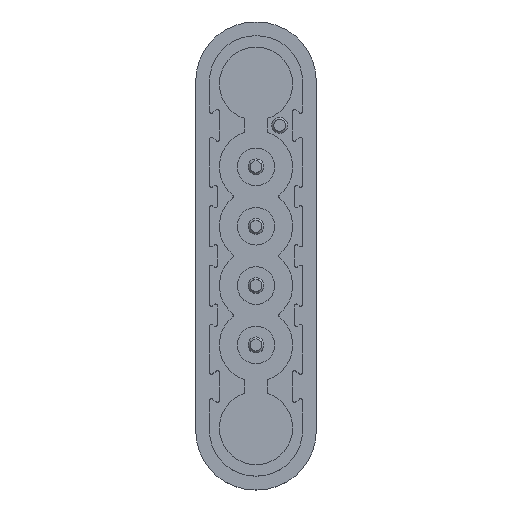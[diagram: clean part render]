
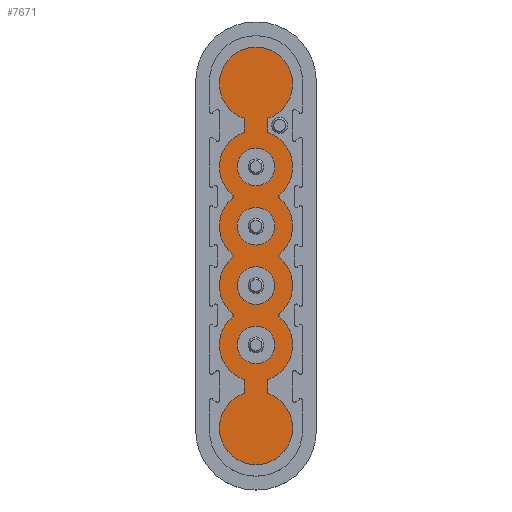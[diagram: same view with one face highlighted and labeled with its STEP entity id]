
A CAD part, top view. The second image highlights one B-rep face of the part: STEP entity #7671.
In plain terms, the highlighted planar face has unit normal (0, 0, 1) as drawn and (0, 0, -1) by its records, which use the part's own axes.
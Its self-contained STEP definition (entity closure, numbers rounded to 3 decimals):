
#6836=DIRECTION('',(0.,-1.,0.));
#6837=VECTOR('',#6836,0.7);
#6838=CARTESIAN_POINT('',(-0.6,6.95,0.));
#6839=LINE('',#6838,#6837);
#6840=CARTESIAN_POINT('',(0.,4.5,0.));
#6841=DIRECTION('',(0.,0.,1.));
#6842=DIRECTION('',(-0.324,0.946,0.));
#6843=AXIS2_PLACEMENT_3D('',#6840,#6841,#6842);
#6845=CARTESIAN_POINT('',(0.,-4.5,0.));
#6846=DIRECTION('',(0.,0.,1.));
#6847=DIRECTION('',(-1.,0.,0.));
#6848=AXIS2_PLACEMENT_3D('',#6845,#6846,#6847);
#6850=DIRECTION('',(0.,-1.,0.));
#6851=VECTOR('',#6850,0.7);
#6852=CARTESIAN_POINT('',(-0.6,-6.25,0.));
#6853=LINE('',#6852,#6851);
#6854=CARTESIAN_POINT('',(0.,-8.7,0.));
#6855=DIRECTION('',(0.,0.,1.));
#6856=DIRECTION('',(-0.324,0.946,0.));
#6857=AXIS2_PLACEMENT_3D('',#6854,#6855,#6856);
#6859=CARTESIAN_POINT('',(0.,-8.7,0.));
#6860=DIRECTION('',(0.,0.,1.));
#6861=DIRECTION('',(-1.,0.,0.));
#6862=AXIS2_PLACEMENT_3D('',#6859,#6860,#6861);
#6864=CARTESIAN_POINT('',(0.,-8.7,0.));
#6865=DIRECTION('',(0.,0.,1.));
#6866=DIRECTION('',(1.,0.,0.));
#6867=AXIS2_PLACEMENT_3D('',#6864,#6865,#6866);
#6869=DIRECTION('',(0.,1.,0.));
#6870=VECTOR('',#6869,0.7);
#6871=CARTESIAN_POINT('',(0.6,-6.95,0.));
#6872=LINE('',#6871,#6870);
#6873=CARTESIAN_POINT('',(0.,-4.5,0.));
#6874=DIRECTION('',(0.,0.,1.));
#6875=DIRECTION('',(0.324,-0.946,0.));
#6876=AXIS2_PLACEMENT_3D('',#6873,#6874,#6875);
#6878=CARTESIAN_POINT('',(0.,4.5,0.));
#6879=DIRECTION('',(0.,0.,1.));
#6880=DIRECTION('',(1.,0.,0.));
#6881=AXIS2_PLACEMENT_3D('',#6878,#6879,#6880);
#6883=DIRECTION('',(0.,1.,0.));
#6884=VECTOR('',#6883,0.7);
#6885=CARTESIAN_POINT('',(0.6,6.25,0.));
#6886=LINE('',#6885,#6884);
#6887=CARTESIAN_POINT('',(0.,8.7,0.));
#6888=DIRECTION('',(0.,0.,1.));
#6889=DIRECTION('',(0.324,-0.946,0.));
#6890=AXIS2_PLACEMENT_3D('',#6887,#6888,#6889);
#6892=CARTESIAN_POINT('',(0.,8.7,0.));
#6893=DIRECTION('',(0.,0.,1.));
#6894=DIRECTION('',(1.,0.,0.));
#6895=AXIS2_PLACEMENT_3D('',#6892,#6893,#6894);
#6897=CARTESIAN_POINT('',(0.,8.7,0.));
#6898=DIRECTION('',(0.,0.,1.));
#6899=DIRECTION('',(-1.,0.,0.));
#6900=AXIS2_PLACEMENT_3D('',#6897,#6898,#6899);
#6902=CARTESIAN_POINT('',(0.,-4.5,0.));
#6903=DIRECTION('',(0.,0.,-1.));
#6904=DIRECTION('',(-1.,0.,0.));
#6905=AXIS2_PLACEMENT_3D('',#6902,#6903,#6904);
#6907=CARTESIAN_POINT('',(0.,-4.5,0.));
#6908=DIRECTION('',(0.,0.,-1.));
#6909=DIRECTION('',(1.,0.,0.));
#6910=AXIS2_PLACEMENT_3D('',#6907,#6908,#6909);
#6912=CARTESIAN_POINT('',(0.,-1.5,0.));
#6913=DIRECTION('',(0.,0.,-1.));
#6914=DIRECTION('',(-1.,0.,0.));
#6915=AXIS2_PLACEMENT_3D('',#6912,#6913,#6914);
#6917=CARTESIAN_POINT('',(0.,-1.5,0.));
#6918=DIRECTION('',(0.,0.,-1.));
#6919=DIRECTION('',(1.,0.,0.));
#6920=AXIS2_PLACEMENT_3D('',#6917,#6918,#6919);
#6922=CARTESIAN_POINT('',(0.,4.5,0.));
#6923=DIRECTION('',(0.,0.,-1.));
#6924=DIRECTION('',(-1.,0.,0.));
#6925=AXIS2_PLACEMENT_3D('',#6922,#6923,#6924);
#6927=CARTESIAN_POINT('',(0.,4.5,0.));
#6928=DIRECTION('',(0.,0.,-1.));
#6929=DIRECTION('',(1.,0.,0.));
#6930=AXIS2_PLACEMENT_3D('',#6927,#6928,#6929);
#6932=CARTESIAN_POINT('',(0.,1.5,0.));
#6933=DIRECTION('',(0.,0.,-1.));
#6934=DIRECTION('',(-1.,0.,0.));
#6935=AXIS2_PLACEMENT_3D('',#6932,#6933,#6934);
#6937=CARTESIAN_POINT('',(0.,1.5,0.));
#6938=DIRECTION('',(0.,0.,-1.));
#6939=DIRECTION('',(1.,0.,0.));
#6940=AXIS2_PLACEMENT_3D('',#6937,#6938,#6939);
#6986=DIRECTION('',(0.,-1.,0.));
#6987=VECTOR('',#6986,9.);
#6988=CARTESIAN_POINT('',(1.85,4.5,0.));
#6989=LINE('',#6988,#6987);
#7050=DIRECTION('',(0.,1.,0.));
#7051=VECTOR('',#7050,9.);
#7052=CARTESIAN_POINT('',(-1.85,-4.5,0.));
#7053=LINE('',#7052,#7051);
#7448=CARTESIAN_POINT('',(-0.6,6.95,0.));
#7449=CARTESIAN_POINT('',(-0.6,6.25,0.));
#7450=VERTEX_POINT('',#7448);
#7451=VERTEX_POINT('',#7449);
#7452=CARTESIAN_POINT('',(-1.85,4.5,0.));
#7453=VERTEX_POINT('',#7452);
#7454=CARTESIAN_POINT('',(-1.85,-4.5,0.));
#7455=VERTEX_POINT('',#7454);
#7456=CARTESIAN_POINT('',(-0.6,-6.25,0.));
#7457=VERTEX_POINT('',#7456);
#7458=CARTESIAN_POINT('',(-0.6,-6.95,0.));
#7459=VERTEX_POINT('',#7458);
#7460=CARTESIAN_POINT('',(-1.85,-8.7,0.));
#7461=VERTEX_POINT('',#7460);
#7462=CARTESIAN_POINT('',(1.85,-8.7,0.));
#7463=VERTEX_POINT('',#7462);
#7464=CARTESIAN_POINT('',(0.6,-6.95,0.));
#7465=VERTEX_POINT('',#7464);
#7466=CARTESIAN_POINT('',(0.6,-6.25,0.));
#7467=VERTEX_POINT('',#7466);
#7468=CARTESIAN_POINT('',(1.85,-4.5,0.));
#7469=VERTEX_POINT('',#7468);
#7470=CARTESIAN_POINT('',(1.85,4.5,0.));
#7471=VERTEX_POINT('',#7470);
#7472=CARTESIAN_POINT('',(0.6,6.25,0.));
#7473=VERTEX_POINT('',#7472);
#7474=CARTESIAN_POINT('',(0.6,6.95,0.));
#7475=VERTEX_POINT('',#7474);
#7476=CARTESIAN_POINT('',(1.85,8.7,0.));
#7477=VERTEX_POINT('',#7476);
#7478=CARTESIAN_POINT('',(-1.85,8.7,0.));
#7479=VERTEX_POINT('',#7478);
#7480=CARTESIAN_POINT('',(-0.95,-4.5,0.));
#7481=CARTESIAN_POINT('',(0.95,-4.5,0.));
#7482=VERTEX_POINT('',#7480);
#7483=VERTEX_POINT('',#7481);
#7484=CARTESIAN_POINT('',(-0.95,-1.5,0.));
#7485=CARTESIAN_POINT('',(0.95,-1.5,0.));
#7486=VERTEX_POINT('',#7484);
#7487=VERTEX_POINT('',#7485);
#7488=CARTESIAN_POINT('',(-0.95,4.5,0.));
#7489=CARTESIAN_POINT('',(0.95,4.5,0.));
#7490=VERTEX_POINT('',#7488);
#7491=VERTEX_POINT('',#7489);
#7492=CARTESIAN_POINT('',(-0.95,1.5,0.));
#7493=CARTESIAN_POINT('',(0.95,1.5,0.));
#7494=VERTEX_POINT('',#7492);
#7495=VERTEX_POINT('',#7493);
#7608=CARTESIAN_POINT('',(0.,-8.7,0.));
#7609=DIRECTION('',(0.,0.,1.));
#7610=DIRECTION('',(1.,0.,0.));
#7611=AXIS2_PLACEMENT_3D('',#7608,#7609,#7610);
#7612=PLANE('',#7611);
#7614=ORIENTED_EDGE('',*,*,#7613,.T.);
#7616=ORIENTED_EDGE('',*,*,#7615,.T.);
#7618=ORIENTED_EDGE('',*,*,#7617,.F.);
#7620=ORIENTED_EDGE('',*,*,#7619,.T.);
#7622=ORIENTED_EDGE('',*,*,#7621,.T.);
#7624=ORIENTED_EDGE('',*,*,#7623,.T.);
#7626=ORIENTED_EDGE('',*,*,#7625,.T.);
#7628=ORIENTED_EDGE('',*,*,#7627,.T.);
#7630=ORIENTED_EDGE('',*,*,#7629,.T.);
#7632=ORIENTED_EDGE('',*,*,#7631,.T.);
#7634=ORIENTED_EDGE('',*,*,#7633,.F.);
#7636=ORIENTED_EDGE('',*,*,#7635,.T.);
#7638=ORIENTED_EDGE('',*,*,#7637,.T.);
#7640=ORIENTED_EDGE('',*,*,#7639,.T.);
#7642=ORIENTED_EDGE('',*,*,#7641,.T.);
#7644=ORIENTED_EDGE('',*,*,#7643,.T.);
#7645=EDGE_LOOP('',(#7614,#7616,#7618,#7620,#7622,#7624,#7626,#7628,#7630,#7632,
#7634,#7636,#7638,#7640,#7642,#7644));
#7646=FACE_OUTER_BOUND('',#7645,.F.);
#7648=ORIENTED_EDGE('',*,*,#7647,.T.);
#7650=ORIENTED_EDGE('',*,*,#7649,.T.);
#7651=EDGE_LOOP('',(#7648,#7650));
#7652=FACE_BOUND('',#7651,.F.);
#7654=ORIENTED_EDGE('',*,*,#7653,.T.);
#7656=ORIENTED_EDGE('',*,*,#7655,.T.);
#7657=EDGE_LOOP('',(#7654,#7656));
#7658=FACE_BOUND('',#7657,.F.);
#7660=ORIENTED_EDGE('',*,*,#7659,.T.);
#7662=ORIENTED_EDGE('',*,*,#7661,.T.);
#7663=EDGE_LOOP('',(#7660,#7662));
#7664=FACE_BOUND('',#7663,.F.);
#7666=ORIENTED_EDGE('',*,*,#7665,.T.);
#7668=ORIENTED_EDGE('',*,*,#7667,.T.);
#7669=EDGE_LOOP('',(#7666,#7668));
#7670=FACE_BOUND('',#7669,.F.);
#7671=ADVANCED_FACE('',(#7646,#7652,#7658,#7664,#7670),#7612,.F.);
#6844=CIRCLE('',#6843,1.85);
#6849=CIRCLE('',#6848,1.85);
#6858=CIRCLE('',#6857,1.85);
#6863=CIRCLE('',#6862,1.85);
#6868=CIRCLE('',#6867,1.85);
#6877=CIRCLE('',#6876,1.85);
#6882=CIRCLE('',#6881,1.85);
#6891=CIRCLE('',#6890,1.85);
#6896=CIRCLE('',#6895,1.85);
#6901=CIRCLE('',#6900,1.85);
#6906=CIRCLE('',#6905,0.95);
#6911=CIRCLE('',#6910,0.95);
#6916=CIRCLE('',#6915,0.95);
#6921=CIRCLE('',#6920,0.95);
#6926=CIRCLE('',#6925,0.95);
#6931=CIRCLE('',#6930,0.95);
#6936=CIRCLE('',#6935,0.95);
#6941=CIRCLE('',#6940,0.95);
#7613=EDGE_CURVE('',#7450,#7451,#6839,.T.);
#7615=EDGE_CURVE('',#7451,#7453,#6844,.T.);
#7617=EDGE_CURVE('',#7455,#7453,#7053,.T.);
#7619=EDGE_CURVE('',#7455,#7457,#6849,.T.);
#7621=EDGE_CURVE('',#7457,#7459,#6853,.T.);
#7623=EDGE_CURVE('',#7459,#7461,#6858,.T.);
#7625=EDGE_CURVE('',#7461,#7463,#6863,.T.);
#7627=EDGE_CURVE('',#7463,#7465,#6868,.T.);
#7629=EDGE_CURVE('',#7465,#7467,#6872,.T.);
#7631=EDGE_CURVE('',#7467,#7469,#6877,.T.);
#7633=EDGE_CURVE('',#7471,#7469,#6989,.T.);
#7635=EDGE_CURVE('',#7471,#7473,#6882,.T.);
#7637=EDGE_CURVE('',#7473,#7475,#6886,.T.);
#7639=EDGE_CURVE('',#7475,#7477,#6891,.T.);
#7641=EDGE_CURVE('',#7477,#7479,#6896,.T.);
#7643=EDGE_CURVE('',#7479,#7450,#6901,.T.);
#7647=EDGE_CURVE('',#7482,#7483,#6906,.T.);
#7649=EDGE_CURVE('',#7483,#7482,#6911,.T.);
#7653=EDGE_CURVE('',#7486,#7487,#6916,.T.);
#7655=EDGE_CURVE('',#7487,#7486,#6921,.T.);
#7659=EDGE_CURVE('',#7490,#7491,#6926,.T.);
#7661=EDGE_CURVE('',#7491,#7490,#6931,.T.);
#7665=EDGE_CURVE('',#7494,#7495,#6936,.T.);
#7667=EDGE_CURVE('',#7495,#7494,#6941,.T.);
